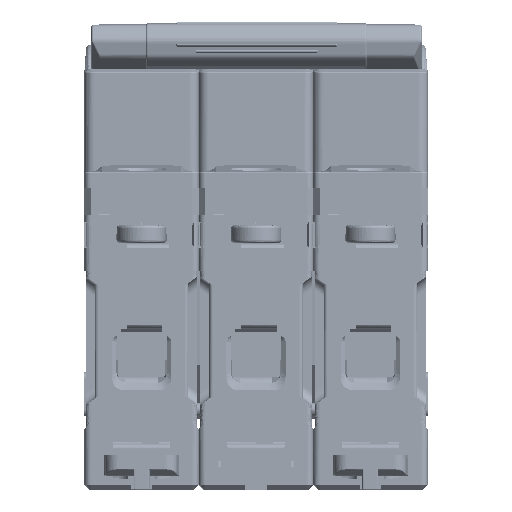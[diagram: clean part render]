
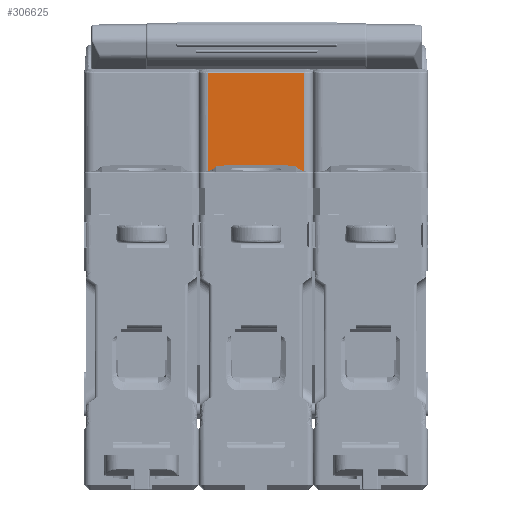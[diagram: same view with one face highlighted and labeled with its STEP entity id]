
A CAD part, front view. The second image highlights one B-rep face of the part: STEP entity #306625.
In plain terms, the highlighted planar face has unit normal (0, -1, 0) as drawn and (-1, 0, 0) by its records, which use the part's own axes.
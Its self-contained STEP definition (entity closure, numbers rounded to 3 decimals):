
#3408 = CARTESIAN_POINT ( 'NONE',  ( 19.555, 64.856, 10.621 ) ) ;
#4270 = ORIENTED_EDGE ( 'NONE', *, *, #448605, .T. ) ;
#7520 = CARTESIAN_POINT ( 'NONE',  ( 19.555, 49.5, 10.637 ) ) ;
#17531 = CARTESIAN_POINT ( 'NONE',  ( 19.555, 49.5, 15.57 ) ) ;
#21092 = B_SPLINE_CURVE_WITH_KNOTS ( 'NONE', 3,
 ( #545015, #80817, #29886, #456656 ),
 .UNSPECIFIED., .F., .F.,
 ( 4, 4 ),
 ( 0., 1. ),
 .UNSPECIFIED. ) ;
#22651 = VERTEX_POINT ( 'NONE', #49647 ) ;
#29886 = CARTESIAN_POINT ( 'NONE',  ( 19.555, 64.856, 0.786 ) ) ;
#36530 = CARTESIAN_POINT ( 'NONE',  ( 19.555, 49.5, 0.77 ) ) ;
#43625 = CARTESIAN_POINT ( 'NONE',  ( 19.555, 48.9, -0.73 ) ) ;
#49647 = CARTESIAN_POINT ( 'NONE',  ( 19.555, 64.856, 0.77 ) ) ;
#54018 = CARTESIAN_POINT ( 'NONE',  ( 19.555, 64.856, 15.554 ) ) ;
#80817 = CARTESIAN_POINT ( 'NONE',  ( 19.555, 64.856, 0.802 ) ) ;
#94918 = B_SPLINE_CURVE_WITH_KNOTS ( 'NONE', 3,
 ( #645363, #174335, #380961, #508518 ),
 .UNSPECIFIED., .F., .F.,
 ( 4, 4 ),
 ( 0., 1. ),
 .UNSPECIFIED. ) ;
#101025 = CARTESIAN_POINT ( 'NONE',  ( 19.555, 59.737, 0.77 ) ) ;
#101538 = ORIENTED_EDGE ( 'NONE', *, *, #441212, .F. ) ;
#101816 = CARTESIAN_POINT ( 'NONE',  ( 19.555, 64.856, 5.72 ) ) ;
#104339 = CARTESIAN_POINT ( 'NONE',  ( 19.555, 54.619, 0.77 ) ) ;
#107216 = AXIS2_PLACEMENT_3D ( 'NONE', #43625, #460305, #202845 ) ;
#118915 = ORIENTED_EDGE ( 'NONE', *, *, #167028, .T. ) ;
#145221 = CARTESIAN_POINT ( 'NONE',  ( 19.555, 64.856, 0.77 ) ) ;
#148534 = CARTESIAN_POINT ( 'NONE',  ( 19.555, 49.5, 0.77 ) ) ;
#167028 = EDGE_CURVE ( 'NONE', #201265, #22651, #21092, .T. ) ;
#174335 = CARTESIAN_POINT ( 'NONE',  ( 19.555, 54.619, 15.57 ) ) ;
#185891 = CARTESIAN_POINT ( 'NONE',  ( 19.555, 64.856, 15.522 ) ) ;
#201265 = VERTEX_POINT ( 'NONE', #479068 ) ;
#202845 = DIRECTION ( 'NONE',  ( 0., 0., 1. ) ) ;
#213441 = CARTESIAN_POINT ( 'NONE',  ( 19.555, 64.856, 15.522 ) ) ;
#224251 = CARTESIAN_POINT ( 'NONE',  ( 19.555, 49.5, 5.703 ) ) ;
#253648 = PLANE ( 'NONE',  #107216 ) ;
#264032 = CARTESIAN_POINT ( 'NONE',  ( 19.555, 64.856, 15.57 ) ) ;
#274702 = VERTEX_POINT ( 'NONE', #185891 ) ;
#292177 = CARTESIAN_POINT ( 'NONE',  ( 19.555, 64.856, 15.57 ) ) ;
#306625 = ADVANCED_FACE ( 'NONE', ( #507867 ), #253648, .T. ) ;
#311565 = CARTESIAN_POINT ( 'NONE',  ( 19.555, 64.856, 15.538 ) ) ;
#380961 = CARTESIAN_POINT ( 'NONE',  ( 19.555, 59.737, 15.57 ) ) ;
#391927 = B_SPLINE_CURVE_WITH_KNOTS ( 'NONE', 3,
 ( #213441, #3408, #101816, #667795 ),
 .UNSPECIFIED., .F., .F.,
 ( 4, 4 ),
 ( 0., 1. ),
 .UNSPECIFIED. ) ;
#427492 = CARTESIAN_POINT ( 'NONE',  ( 19.555, 49.5, 0.77 ) ) ;
#441212 = EDGE_CURVE ( 'NONE', #628391, #22651, #499796, .T. ) ;
#448605 = EDGE_CURVE ( 'NONE', #663243, #274702, #470581, .T. ) ;
#453416 = EDGE_CURVE ( 'NONE', #478232, #663243, #94918, .T. ) ;
#456656 = CARTESIAN_POINT ( 'NONE',  ( 19.555, 64.856, 0.77 ) ) ;
#460305 = DIRECTION ( 'NONE',  ( -1., 0., 0. ) ) ;
#470581 = B_SPLINE_CURVE_WITH_KNOTS ( 'NONE', 3,
 ( #264032, #54018, #311565, #521590 ),
 .UNSPECIFIED., .F., .F.,
 ( 4, 4 ),
 ( 0., 1. ),
 .UNSPECIFIED. ) ;
#478232 = VERTEX_POINT ( 'NONE', #651098 ) ;
#479068 = CARTESIAN_POINT ( 'NONE',  ( 19.555, 64.856, 0.819 ) ) ;
#486169 = ORIENTED_EDGE ( 'NONE', *, *, #453416, .T. ) ;
#499796 = B_SPLINE_CURVE_WITH_KNOTS ( 'NONE', 3,
 ( #148534, #104339, #101025, #145221 ),
 .UNSPECIFIED., .F., .F.,
 ( 4, 4 ),
 ( 0., 1. ),
 .UNSPECIFIED. ) ;
#507867 = FACE_OUTER_BOUND ( 'NONE', #597565, .T. ) ;
#508518 = CARTESIAN_POINT ( 'NONE',  ( 19.555, 64.856, 15.57 ) ) ;
#521590 = CARTESIAN_POINT ( 'NONE',  ( 19.555, 64.856, 15.522 ) ) ;
#545015 = CARTESIAN_POINT ( 'NONE',  ( 19.555, 64.856, 0.819 ) ) ;
#547764 = B_SPLINE_CURVE_WITH_KNOTS ( 'NONE', 3,
 ( #17531, #7520, #224251, #427492 ),
 .UNSPECIFIED., .F., .F.,
 ( 4, 4 ),
 ( 0., 1. ),
 .UNSPECIFIED. ) ;
#556616 = ORIENTED_EDGE ( 'NONE', *, *, #655743, .T. ) ;
#597565 = EDGE_LOOP ( 'NONE', ( #118915, #101538, #611837, #486169, #4270, #556616 ) ) ;
#611837 = ORIENTED_EDGE ( 'NONE', *, *, #633260, .F. ) ;
#628391 = VERTEX_POINT ( 'NONE', #36530 ) ;
#633260 = EDGE_CURVE ( 'NONE', #478232, #628391, #547764, .T. ) ;
#645363 = CARTESIAN_POINT ( 'NONE',  ( 19.555, 49.5, 15.57 ) ) ;
#651098 = CARTESIAN_POINT ( 'NONE',  ( 19.555, 49.5, 15.57 ) ) ;
#655743 = EDGE_CURVE ( 'NONE', #274702, #201265, #391927, .T. ) ;
#663243 = VERTEX_POINT ( 'NONE', #292177 ) ;
#667795 = CARTESIAN_POINT ( 'NONE',  ( 19.555, 64.856, 0.819 ) ) ;
